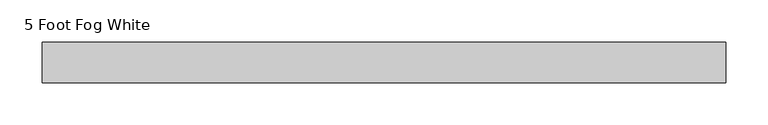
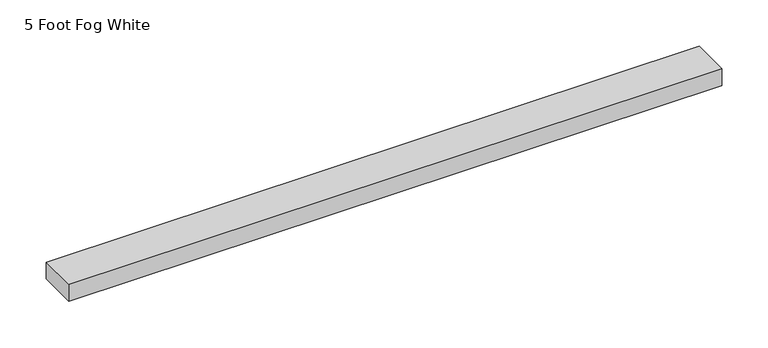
"""IFC4 building model written with IfcOpenShell, lengths in millimetres: proxy geometry, Raceway-2400_Series-Wiremold-Steel : 5 Foot Fog White."""

from ifc_helpers import new_model, si_unit, origin, origin_with_axes, place, context, project, spatial, polyline, outline, extrude, source, transform, mapped, element, save


def proxy_5_foot_fog_white_20a17563(model_context):
    return source(origin(), model_context, "Body", "SweptSolid", [
        extrude(outline(polyline([(812.8, 24.2062), (812.8, -24.2062), (0.0, -24.2062), (0.0, 24.2062), (812.8, 24.2062)])), origin_with_axes(), (0.0, 0.0, 1.0), 22.225),
    ])


if __name__ == "__main__":
    model = new_model("IFC4")
    model_context = context("Model", 3, world=origin())
    ifc_project = project(units=[si_unit("LENGTHUNIT", "METRE", prefix="MILLI")], contexts=[model_context])
    site = spatial("IfcSite", under=ifc_project)
    building = spatial("IfcBuilding", under=site)
    placement = place(None, origin())
    proxy_5_foot_fog_white_shape = proxy_5_foot_fog_white_20a17563(model_context)
    element("IfcBuildingElementProxy", 1, Name="Raceway-2400_Series-Wiremold-Steel : 5 Foot Fog White", ObjectType="Raceway-2400_Series-Wiremold-Steel : 5 Foot Fog White", at=placement, inside=building, context=model_context, shape_type="MappedRepresentation", body=[
        mapped(proxy_5_foot_fog_white_shape, transform((0.0, 0.0, 0.0), x_axis=(1.0, 0.0, 0.0), y_axis=(0.0, 1.0, 0.0), z_axis=(0.0, 0.0, 1.0))),
    ])
    save(model, "model.ifc")
